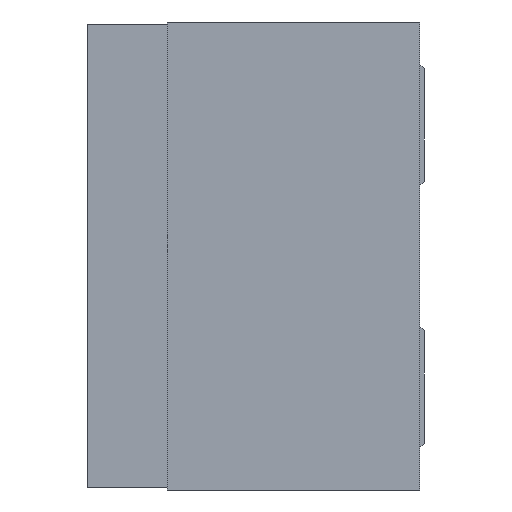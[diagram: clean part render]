
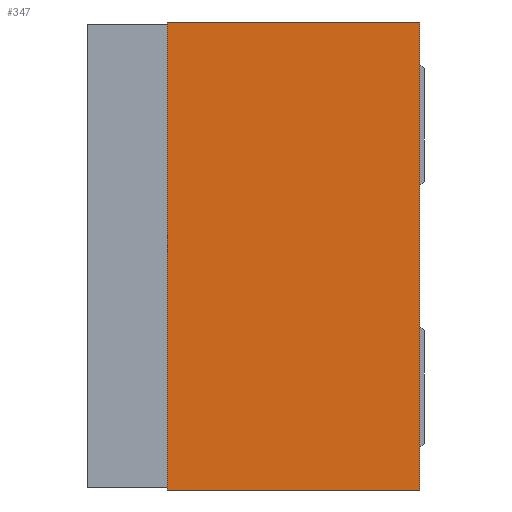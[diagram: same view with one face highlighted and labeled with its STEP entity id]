
A CAD part, left-side view. The second image highlights one B-rep face of the part: STEP entity #347.
In plain terms, the highlighted planar face has unit normal (-1, 0, 0).
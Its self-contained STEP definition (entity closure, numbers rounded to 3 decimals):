
#347 = ADVANCED_FACE( '', ( #1070 ), #1071, .F. );
#1070 = FACE_OUTER_BOUND( '', #2258, .T. );
#1071 = PLANE( '', #2259 );
#2258 = EDGE_LOOP( '', ( #4362, #4363, #4364, #4365 ) );
#2259 = AXIS2_PLACEMENT_3D( '', #4366, #4367, #4368 );
#4362 = ORIENTED_EDGE( '', *, *, #7795, .F. );
#4363 = ORIENTED_EDGE( '', *, *, #7796, .F. );
#4364 = ORIENTED_EDGE( '', *, *, #7797, .F. );
#4365 = ORIENTED_EDGE( '', *, *, #7791, .F. );
#4366 = CARTESIAN_POINT( '', ( -15., 0., 0. ) );
#4367 = DIRECTION( '', ( 1., 0., 0. ) );
#4368 = DIRECTION( '', ( 0., 0., -1. ) );
#7791 = EDGE_CURVE( '', #9493, #9494, #9495, .T. );
#7795 = EDGE_CURVE( '', #9501, #9493, #9502, .T. );
#7796 = EDGE_CURVE( '', #9503, #9501, #9504, .T. );
#7797 = EDGE_CURVE( '', #9494, #9503, #9505, .T. );
#9493 = VERTEX_POINT( '', #11965 );
#9494 = VERTEX_POINT( '', #11966 );
#9495 = LINE( '', #11967, #11968 );
#9501 = VERTEX_POINT( '', #11977 );
#9502 = LINE( '', #11978, #11979 );
#9503 = VERTEX_POINT( '', #11980 );
#9504 = LINE( '', #11981, #11982 );
#9505 = LINE( '', #11983, #11984 );
#11965 = CARTESIAN_POINT( '', ( -15., 23., -50. ) );
#11966 = CARTESIAN_POINT( '', ( -15., 23., 50. ) );
#11967 = CARTESIAN_POINT( '', ( -15., 23., -50. ) );
#11968 = VECTOR( '', #14603, 1. );
#11977 = CARTESIAN_POINT( '', ( -15., -31., -50. ) );
#11978 = CARTESIAN_POINT( '', ( -15., -31., -50. ) );
#11979 = VECTOR( '', #14607, 1. );
#11980 = CARTESIAN_POINT( '', ( -15., -31., 50. ) );
#11981 = CARTESIAN_POINT( '', ( -15., -31., 50. ) );
#11982 = VECTOR( '', #14608, 1. );
#11983 = CARTESIAN_POINT( '', ( -15., 23., 50. ) );
#11984 = VECTOR( '', #14609, 1. );
#14603 = DIRECTION( '', ( 0., 0., 1. ) );
#14607 = DIRECTION( '', ( 0., 1., 0. ) );
#14608 = DIRECTION( '', ( 0., 0., -1. ) );
#14609 = DIRECTION( '', ( 0., -1., 0. ) );
